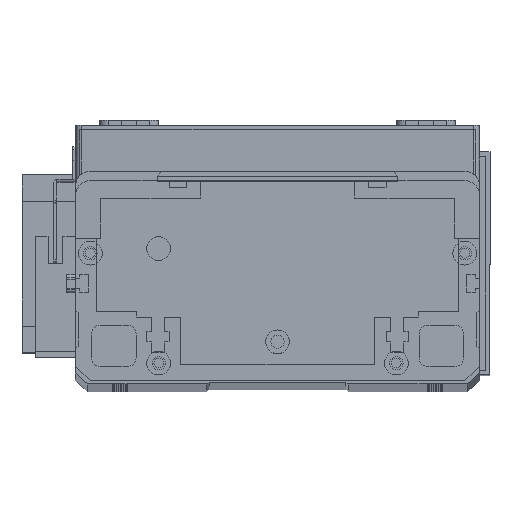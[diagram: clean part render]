
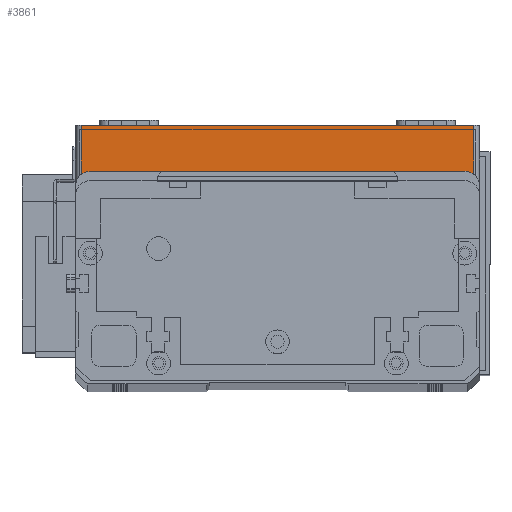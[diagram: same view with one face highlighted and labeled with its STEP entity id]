
A CAD part, top view. The second image highlights one B-rep face of the part: STEP entity #3861.
In plain terms, the highlighted planar face has unit normal (0, 0, 1) as drawn and (0, -1, 0) by its records, which use the part's own axes.
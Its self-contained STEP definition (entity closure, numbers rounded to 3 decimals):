
#291 = AXIS2_PLACEMENT_3D ( 'NONE', #9558, #11040, #9377 ) ;
#543 = DIRECTION ( 'NONE',  ( 0., 0., -1. ) ) ;
#732 = LINE ( 'NONE', #25756, #6178 ) ;
#1355 = EDGE_CURVE ( 'NONE', #20207, #27884, #5006, .T. ) ;
#3489 = EDGE_CURVE ( 'NONE', #4547, #27884, #22548, .T. ) ;
#3861 = ADVANCED_FACE ( 'NONE', ( #17895 ), #9471, .F. ) ;
#4547 = VERTEX_POINT ( 'NONE', #8773 ) ;
#4627 = DIRECTION ( 'NONE',  ( 1., 0., 0. ) ) ;
#5006 = LINE ( 'NONE', #28593, #16590 ) ;
#5321 = EDGE_LOOP ( 'NONE', ( #5876, #22141, #19350, #14359 ) ) ;
#5876 = ORIENTED_EDGE ( 'NONE', *, *, #3489, .F. ) ;
#5883 = VECTOR ( 'NONE', #4627, 1000. ) ;
#6178 = VECTOR ( 'NONE', #543, 1000. ) ;
#8773 = CARTESIAN_POINT ( 'NONE',  ( 2., 0., 19.5 ) ) ;
#9377 = DIRECTION ( 'NONE',  ( 0., 0., 1. ) ) ;
#9471 = PLANE ( 'NONE',  #291 ) ;
#9558 = CARTESIAN_POINT ( 'NONE',  ( 0., 0., 19.5 ) ) ;
#11040 = DIRECTION ( 'NONE',  ( 0., 1., 0. ) ) ;
#12756 = LINE ( 'NONE', #25275, #5883 ) ;
#14195 = CARTESIAN_POINT ( 'NONE',  ( 134., 0., 19.5 ) ) ;
#14359 = ORIENTED_EDGE ( 'NONE', *, *, #1355, .T. ) ;
#15894 = EDGE_CURVE ( 'NONE', #4547, #19782, #732, .T. ) ;
#16380 = CARTESIAN_POINT ( 'NONE',  ( 0., 0., 19.5 ) ) ;
#16590 = VECTOR ( 'NONE', #29048, 1000. ) ;
#16794 = CARTESIAN_POINT ( 'NONE',  ( 2., 0., 0. ) ) ;
#17895 = FACE_OUTER_BOUND ( 'NONE', #5321, .T. ) ;
#17924 = VECTOR ( 'NONE', #18916, 1000. ) ;
#18916 = DIRECTION ( 'NONE',  ( 1., 0., 0. ) ) ;
#19350 = ORIENTED_EDGE ( 'NONE', *, *, #22066, .T. ) ;
#19782 = VERTEX_POINT ( 'NONE', #16794 ) ;
#20207 = VERTEX_POINT ( 'NONE', #25577 ) ;
#22066 = EDGE_CURVE ( 'NONE', #19782, #20207, #12756, .T. ) ;
#22141 = ORIENTED_EDGE ( 'NONE', *, *, #15894, .T. ) ;
#22548 = LINE ( 'NONE', #16380, #17924 ) ;
#25275 = CARTESIAN_POINT ( 'NONE',  ( 0., 0., 0. ) ) ;
#25577 = CARTESIAN_POINT ( 'NONE',  ( 134., 0., 0. ) ) ;
#25756 = CARTESIAN_POINT ( 'NONE',  ( 2., 0., 19.5 ) ) ;
#27884 = VERTEX_POINT ( 'NONE', #14195 ) ;
#28593 = CARTESIAN_POINT ( 'NONE',  ( 134., 0., 19.5 ) ) ;
#29048 = DIRECTION ( 'NONE',  ( 0., 0., 1. ) ) ;
